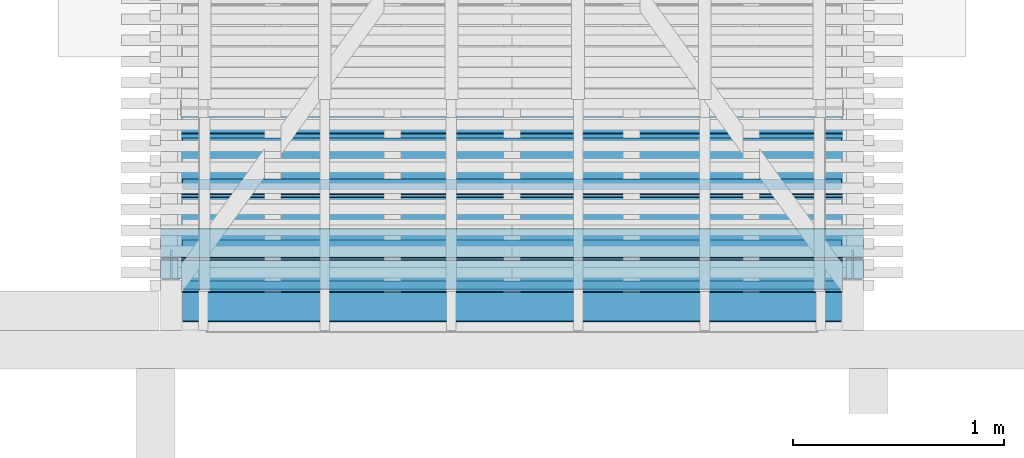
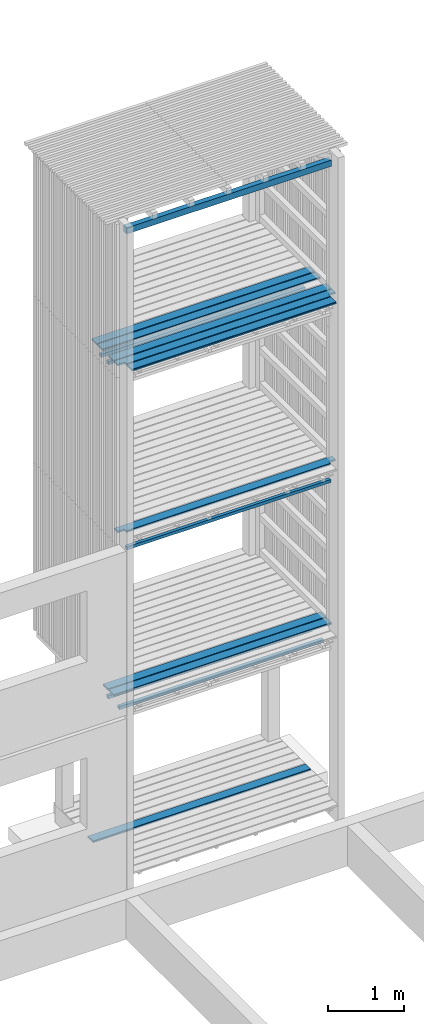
# One storey, part 68 of 182: 15 beams.
"""IFC2X3 building model written with IfcOpenShell, lengths in metres."""

from ifc_helpers import new_model, si_unit, frame, origin, place, context, project, spatial, faceted_brep, element, save


model = new_model("IFC2X3")

# Units and contexts
model_context = context("Model", 3, precision=1e-06, world=origin())
ifc_project = project(units=[si_unit("LENGTHUNIT", "METRE"), si_unit("PLANEANGLEUNIT", "RADIAN")], contexts=[model_context])

# Site, building, storey
site = spatial("IfcSite", under=ifc_project, CompositionType="ELEMENT")
building = spatial("IfcBuilding", under=site, CompositionType="ELEMENT")
storey = spatial("IfcBuildingStorey", under=building, Name="vs", CompositionType="ELEMENT", Elevation=-0.85)

# Beams
placement = place(None, origin())
beam_1_placement = place(placement, frame((26.374999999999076, 11.18457769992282, 8.13349999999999), z_axis=(0.0, 0.0, 1.0), x_axis=(-1.0, -2e-15, 0.0)))
element("IfcBeam", 1, at=beam_1_placement, inside=storey, Name="Caillebotis", context=model_context, shape_type="Brep", body=[
    faceted_brep([(3.329999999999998, -0.072500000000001, -0.013500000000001), (3.329999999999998, 0.072500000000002, -0.013500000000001), (3.329999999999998, 0.072499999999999, 0.008499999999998), (3.329999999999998, 0.0675, 0.013499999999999), (3.329999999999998, -0.067500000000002, 0.013499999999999), (3.329999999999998, -0.072500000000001, 0.0085), (0.0, -0.072499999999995, 0.0085), (0.0, -0.067499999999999, 0.013499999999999), (0.0, 0.067500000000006, 0.013499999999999), (0.0, 0.072500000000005, 0.008499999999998), (0.0, 0.072500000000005, -0.013500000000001), (0.0, -0.072499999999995, -0.013500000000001), (3.329999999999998, 0.072499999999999, 0.008499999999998), (3.329999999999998, 0.072500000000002, -0.013500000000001), (0.0, 0.072500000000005, -0.013500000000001), (0.0, 0.072500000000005, 0.008499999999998), (3.329999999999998, 0.0675, 0.013499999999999), (3.329999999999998, 0.072499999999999, 0.008499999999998), (0.0, 0.072500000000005, 0.008499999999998), (0.0, 0.067500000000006, 0.013499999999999), (3.329999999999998, -0.067500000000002, 0.013499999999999), (3.329999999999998, 0.0675, 0.013499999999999), (0.0, 0.067500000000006, 0.013499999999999), (0.0, -0.067499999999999, 0.013499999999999), (3.329999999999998, -0.072500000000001, 0.0085), (3.329999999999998, -0.067500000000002, 0.013499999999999), (0.0, -0.067499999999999, 0.013499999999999), (0.0, -0.072499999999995, 0.0085), (3.329999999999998, -0.072500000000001, -0.013500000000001), (3.329999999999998, -0.072500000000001, 0.0085), (0.0, -0.072499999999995, 0.0085), (0.0, -0.072499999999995, -0.013500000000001), (0.0, 0.072500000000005, -0.013500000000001), (3.329999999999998, 0.072500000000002, -0.013500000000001), (3.329999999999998, -0.072500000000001, -0.013500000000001), (0.0, -0.072499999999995, -0.013500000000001)], [[[0, 1, 2, 3, 4, 5]], [[6, 7, 8, 9, 10, 11]], [[12, 13, 14, 15]], [[16, 17, 18, 19]], [[20, 21, 22, 23]], [[24, 25, 26, 27]], [[28, 29, 30, 31]], [[32, 33, 34, 35]]]),
])
beam_2_placement = place(placement, frame((26.269999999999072, 10.680077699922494, 5.167999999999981), z_axis=(0.0, 0.0, 1.0), x_axis=(-1.0, 0.0, 0.0)))
element("IfcBeam", 2, at=beam_2_placement, inside=storey, Name="Bardage", context=model_context, shape_type="Brep", body=[
    faceted_brep([(3.120000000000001, -0.025000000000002, 0.025000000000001), (3.120000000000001, -0.025000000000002, -0.025), (3.120000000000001, 0.024999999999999, -0.025), (3.120000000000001, 0.024999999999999, 0.025000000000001), (-3e-15, 0.024999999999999, 0.025000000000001), (-3e-15, 0.024999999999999, -0.025), (-3e-15, -0.024999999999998, -0.025), (-3e-15, -0.024999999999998, 0.025000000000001), (3.120000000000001, -0.025000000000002, -0.025), (3.120000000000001, -0.025000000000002, 0.025000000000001), (-3e-15, -0.024999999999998, 0.025000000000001), (-3e-15, -0.024999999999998, -0.025), (3.120000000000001, 0.024999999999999, -0.025), (3.120000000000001, -0.025000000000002, -0.025), (-3e-15, -0.024999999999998, -0.025), (-3e-15, 0.024999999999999, -0.025), (3.120000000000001, 0.024999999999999, 0.025000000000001), (3.120000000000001, 0.024999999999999, -0.025), (-3e-15, 0.024999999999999, -0.025), (-3e-15, 0.024999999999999, 0.025000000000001), (3.120000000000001, -0.025000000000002, 0.025000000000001), (3.120000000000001, 0.024999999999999, 0.025000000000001), (-3e-15, 0.024999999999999, 0.025000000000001), (-3e-15, -0.024999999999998, 0.025000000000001)], [[[0, 1, 2, 3]], [[4, 5, 6, 7]], [[8, 9, 10, 11]], [[12, 13, 14, 15]], [[16, 17, 18, 19]], [[20, 21, 22, 23]]]),
])
beam_3_placement = place(placement, frame((26.269999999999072, 11.164452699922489, 7.867999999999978), z_axis=(0.0, 0.0, 1.0), x_axis=(-1.0, 0.0, 0.0)))
element("IfcBeam", 3, at=beam_3_placement, inside=storey, Name="Bardage", context=model_context, shape_type="Brep", body=[
    faceted_brep([(3.120000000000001, 0.025000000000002, -0.025000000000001), (3.120000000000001, -0.024999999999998, -0.025000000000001), (-3e-15, -0.024999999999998, -0.025000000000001), (-3e-15, 0.024999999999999, -0.025000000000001), (-3e-15, -0.024999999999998, -0.025000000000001), (3.120000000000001, -0.024999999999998, -0.025000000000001), (3.120000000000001, -0.024999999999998, 0.024999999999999), (-3e-15, -0.024999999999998, 0.024999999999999), (3.120000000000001, -0.024999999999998, -0.025000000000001), (3.120000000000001, 0.025000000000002, -0.025000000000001), (3.120000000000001, 0.025000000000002, 0.024999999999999), (3.120000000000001, -0.024999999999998, 0.024999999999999), (3.120000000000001, 0.025000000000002, 0.024999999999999), (3.120000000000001, 0.025000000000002, -0.025000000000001), (-3e-15, 0.024999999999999, -0.025000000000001), (-3e-15, 0.024999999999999, 0.024999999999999), (-3e-15, -0.024999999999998, 0.024999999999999), (3.120000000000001, -0.024999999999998, 0.024999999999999), (3.120000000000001, 0.025000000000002, 0.024999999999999), (-3e-15, 0.024999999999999, 0.024999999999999), (-3e-15, -0.024999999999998, -0.025000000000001), (-3e-15, -0.024999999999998, 0.024999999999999), (-3e-15, 0.024999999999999, 0.024999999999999), (-3e-15, 0.024999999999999, -0.025000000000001)], [[[0, 1, 2, 3]], [[4, 5, 6, 7]], [[8, 9, 10, 11]], [[12, 13, 14, 15]], [[16, 17, 18, 19]], [[20, 21, 22, 23]]]),
])
beam_4_placement = place(placement, frame((26.269999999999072, 11.358202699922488, 7.867999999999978), z_axis=(0.0, 0.0, 1.0), x_axis=(-1.0, -1e-15, 0.0)))
element("IfcBeam", 4, at=beam_4_placement, inside=storey, Name="Bardage", context=model_context, shape_type="Brep", body=[
    faceted_brep([(3.120000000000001, 0.024999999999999, -0.025000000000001), (3.120000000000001, -0.025000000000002, -0.025000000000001), (-3e-15, -0.025000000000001, -0.025000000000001), (-3e-15, 0.025000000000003, -0.025000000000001), (-3e-15, -0.025000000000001, -0.025000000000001), (3.120000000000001, -0.025000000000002, -0.025000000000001), (3.120000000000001, -0.025000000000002, 0.024999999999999), (-3e-15, -0.025000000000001, 0.024999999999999), (3.120000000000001, -0.025000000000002, -0.025000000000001), (3.120000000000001, 0.024999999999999, -0.025000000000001), (3.120000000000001, 0.024999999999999, 0.024999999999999), (3.120000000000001, -0.025000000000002, 0.024999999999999), (3.120000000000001, 0.024999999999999, 0.024999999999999), (3.120000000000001, 0.024999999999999, -0.025000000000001), (-3e-15, 0.025000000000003, -0.025000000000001), (-3e-15, 0.025000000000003, 0.024999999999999), (-3e-15, -0.025000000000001, 0.024999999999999), (3.120000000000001, -0.025000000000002, 0.024999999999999), (3.120000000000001, 0.024999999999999, 0.024999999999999), (-3e-15, 0.025000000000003, 0.024999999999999), (-3e-15, -0.025000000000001, -0.025000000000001), (-3e-15, -0.025000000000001, 0.024999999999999), (-3e-15, 0.025000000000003, 0.024999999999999), (-3e-15, 0.025000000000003, -0.025000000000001)], [[[0, 1, 2, 3]], [[4, 5, 6, 7]], [[8, 9, 10, 11]], [[12, 13, 14, 15]], [[16, 17, 18, 19]], [[20, 21, 22, 23]]]),
])
beam_5_placement = place(placement, frame((26.269999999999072, 10.873827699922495, 2.467999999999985), z_axis=(0.0, 0.0, 1.0), x_axis=(-1.0, 0.0, 0.0)))
element("IfcBeam", 5, at=beam_5_placement, inside=storey, Name="Bardage", context=model_context, shape_type="Brep", body=[
    faceted_brep([(3.120000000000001, 0.025000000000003, -0.025), (3.120000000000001, -0.024999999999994, -0.025), (-3e-15, -0.024999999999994, -0.025), (-3e-15, 0.025000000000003, -0.025), (-3e-15, -0.024999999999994, -0.025), (3.120000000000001, -0.024999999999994, -0.025), (3.120000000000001, -0.024999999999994, 0.025), (-3e-15, -0.024999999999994, 0.025), (3.120000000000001, -0.024999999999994, -0.025), (3.120000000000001, 0.025000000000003, -0.025), (3.120000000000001, 0.025000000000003, 0.025), (3.120000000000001, -0.024999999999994, 0.025), (3.120000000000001, 0.025000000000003, 0.025), (3.120000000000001, 0.025000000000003, -0.025), (-3e-15, 0.025000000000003, -0.025), (-3e-15, 0.025000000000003, 0.025), (-3e-15, -0.024999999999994, 0.025), (3.120000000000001, -0.024999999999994, 0.025), (3.120000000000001, 0.025000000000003, 0.025), (-3e-15, 0.025000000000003, 0.025), (-3e-15, -0.024999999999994, -0.025), (-3e-15, -0.024999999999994, 0.025), (-3e-15, 0.025000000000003, 0.025), (-3e-15, 0.025000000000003, -0.025)], [[[0, 1, 2, 3]], [[4, 5, 6, 7]], [[8, 9, 10, 11]], [[12, 13, 14, 15]], [[16, 17, 18, 19]], [[20, 21, 22, 23]]]),
])
beam_6_placement = place(placement, frame((26.269999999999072, 10.584577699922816, 8.13349999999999), z_axis=(0.0, 0.0, 1.0), x_axis=(-1.0, 0.0, 0.0)))
element("IfcBeam", 6, at=beam_6_placement, inside=storey, Name="Caillebotis", context=model_context, shape_type="Brep", body=[
    faceted_brep([(-3e-15, -0.072500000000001, 0.008500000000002), (-3e-15, -0.067500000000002, 0.013499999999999), (-3e-15, 0.067499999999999, 0.013499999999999), (-3e-15, 0.072499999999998, 0.0085), (-3e-15, 0.072499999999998, -0.013500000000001), (-3e-15, -0.072500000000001, -0.013500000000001), (-3e-15, 0.072499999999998, -0.013500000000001), (-3e-15, 0.072499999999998, 0.0085), (3.120000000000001, 0.072499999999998, 0.008499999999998), (3.120000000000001, 0.072499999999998, -0.013500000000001), (-3e-15, -0.072500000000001, -0.013500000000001), (-3e-15, 0.072499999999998, -0.013500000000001), (3.120000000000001, 0.072499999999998, -0.013500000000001), (3.120000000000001, -0.072500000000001, -0.013500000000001), (-3e-15, -0.072500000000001, 0.008500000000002), (-3e-15, -0.072500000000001, -0.013500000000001), (3.120000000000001, -0.072500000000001, -0.013500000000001), (3.120000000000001, -0.072500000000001, 0.0085), (-3e-15, -0.067500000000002, 0.013499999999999), (-3e-15, -0.072500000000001, 0.008500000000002), (3.120000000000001, -0.072500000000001, 0.0085), (3.120000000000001, -0.067500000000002, 0.013499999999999), (-3e-15, 0.067499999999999, 0.013499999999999), (-3e-15, -0.067500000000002, 0.013499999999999), (3.120000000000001, -0.067500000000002, 0.013499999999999), (3.120000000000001, 0.067499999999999, 0.013499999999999), (-3e-15, 0.072499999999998, 0.0085), (-3e-15, 0.067499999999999, 0.013499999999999), (3.120000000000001, 0.067499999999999, 0.013499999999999), (3.120000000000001, 0.072499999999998, 0.008499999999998), (3.120000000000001, -0.072500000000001, -0.013500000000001), (3.120000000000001, 0.072499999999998, -0.013500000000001), (3.120000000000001, 0.072499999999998, 0.008499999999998), (3.120000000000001, 0.067499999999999, 0.013499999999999), (3.120000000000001, -0.067500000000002, 0.013499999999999), (3.120000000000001, -0.072500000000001, 0.0085)], [[[0, 1, 2, 3, 4, 5]], [[6, 7, 8, 9]], [[10, 11, 12, 13]], [[14, 15, 16, 17]], [[18, 19, 20, 21]], [[22, 23, 24, 25]], [[26, 27, 28, 29]], [[30, 31, 32, 33, 34, 35]]]),
])
beam_7_placement = place(placement, frame((26.374999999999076, 11.034577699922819, 2.733499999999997), z_axis=(0.0, 0.0, 1.0), x_axis=(-1.0, -1e-15, 0.0)))
element("IfcBeam", 7, at=beam_7_placement, inside=storey, Name="Caillebotis", context=model_context, shape_type="Brep", body=[
    faceted_brep([(3.329999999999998, -0.072500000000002, -0.0135), (3.329999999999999, 0.072500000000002, -0.0135), (3.329999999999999, 0.072500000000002, 0.0085), (3.329999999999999, 0.067499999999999, 0.0135), (3.329999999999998, -0.067499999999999, 0.0135), (3.329999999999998, -0.072500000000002, 0.008500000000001), (0.0, -0.072499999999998, 0.008500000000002), (0.0, -0.067499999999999, 0.0135), (0.0, 0.067500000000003, 0.0135), (0.0, 0.072500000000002, 0.0085), (0.0, 0.072500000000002, -0.0135), (0.0, -0.072499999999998, -0.0135), (3.329999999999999, 0.072500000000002, 0.0085), (3.329999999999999, 0.072500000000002, -0.0135), (0.0, 0.072500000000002, -0.0135), (0.0, 0.072500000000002, 0.0085), (3.329999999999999, 0.067499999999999, 0.0135), (3.329999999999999, 0.072500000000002, 0.0085), (0.0, 0.072500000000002, 0.0085), (0.0, 0.067500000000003, 0.0135), (3.329999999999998, -0.067499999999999, 0.0135), (3.329999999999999, 0.067499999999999, 0.0135), (0.0, 0.067500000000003, 0.0135), (0.0, -0.067499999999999, 0.0135), (3.329999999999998, -0.072500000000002, 0.008500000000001), (3.329999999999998, -0.067499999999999, 0.0135), (0.0, -0.067499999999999, 0.0135), (0.0, -0.072499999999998, 0.008500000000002), (3.329999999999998, -0.072500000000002, -0.0135), (3.329999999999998, -0.072500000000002, 0.008500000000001), (0.0, -0.072499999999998, 0.008500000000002), (0.0, -0.072499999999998, -0.0135), (0.0, 0.072500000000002, -0.0135), (3.329999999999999, 0.072500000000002, -0.0135), (3.329999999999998, -0.072500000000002, -0.0135), (0.0, -0.072499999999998, -0.0135)], [[[0, 1, 2, 3, 4, 5]], [[6, 7, 8, 9, 10, 11]], [[12, 13, 14, 15]], [[16, 17, 18, 19]], [[20, 21, 22, 23]], [[24, 25, 26, 27]], [[28, 29, 30, 31]], [[32, 33, 34, 35]]]),
])
beam_8_placement = place(placement, frame((26.374999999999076, 10.734577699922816, 5.433499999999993), z_axis=(0.0, 0.0, 1.0), x_axis=(-1.0, 0.0, 0.0)))
element("IfcBeam", 8, at=beam_8_placement, inside=storey, Name="Caillebotis", context=model_context, shape_type="Brep", body=[
    faceted_brep([(0.0, -0.072499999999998, -0.0135), (0.0, -0.072499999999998, 0.008500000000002), (0.0, -0.067499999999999, 0.0135), (0.0, 0.019500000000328, 0.0135), (0.0, 0.019500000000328, -0.0135), (3.329999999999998, -0.067499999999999, 0.0135), (3.329999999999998, 0.019500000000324, 0.0135), (3.225000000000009, 0.019500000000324, 0.0135), (3.225000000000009, 0.067500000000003, 0.0135), (0.105000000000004, 0.067500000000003, 0.0135), (0.105000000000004, 0.019500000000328, 0.0135), (0.0, 0.019500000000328, 0.0135), (0.0, -0.067499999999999, 0.0135), (0.105000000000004, 0.019500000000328, 0.0135), (0.105000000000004, 0.067500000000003, 0.0135), (0.105000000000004, 0.072500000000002, 0.008500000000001), (0.105000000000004, 0.072500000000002, -0.0135), (0.105000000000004, 0.019500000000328, -0.0135), (0.105000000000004, 0.072500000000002, 0.008500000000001), (0.105000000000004, 0.067500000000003, 0.0135), (3.225000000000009, 0.067500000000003, 0.0135), (3.225000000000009, 0.072500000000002, 0.0085), (0.105000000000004, 0.072500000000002, -0.0135), (0.105000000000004, 0.072500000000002, 0.008500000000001), (3.225000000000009, 0.072500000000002, 0.0085), (3.225000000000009, 0.072500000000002, -0.0135), (3.225000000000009, 0.072500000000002, -0.0135), (3.225000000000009, 0.072500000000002, 0.0085), (3.225000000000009, 0.067500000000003, 0.0135), (3.225000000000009, 0.019500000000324, 0.0135), (3.225000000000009, 0.019500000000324, -0.0135), (3.225000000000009, 0.019500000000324, -0.0135), (3.225000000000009, 0.019500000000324, 0.0135), (3.329999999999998, 0.019500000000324, 0.0135), (3.329999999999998, 0.019500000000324, -0.0135), (3.329999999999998, -0.072499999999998, 0.008500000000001), (3.329999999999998, -0.072499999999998, -0.0135), (3.329999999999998, 0.019500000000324, -0.0135), (3.329999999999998, 0.019500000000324, 0.0135), (3.329999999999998, -0.067499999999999, 0.0135), (3.329999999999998, -0.072499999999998, 0.008500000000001), (3.329999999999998, -0.067499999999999, 0.0135), (0.0, -0.067499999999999, 0.0135), (0.0, -0.072499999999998, 0.008500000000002), (3.329999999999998, -0.072499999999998, -0.0135), (3.329999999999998, -0.072499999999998, 0.008500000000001), (0.0, -0.072499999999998, 0.008500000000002), (0.0, -0.072499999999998, -0.0135), (0.105000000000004, 0.019500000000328, -0.0135), (0.105000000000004, 0.072500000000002, -0.0135), (3.225000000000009, 0.072500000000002, -0.0135), (3.225000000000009, 0.019500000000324, -0.0135), (3.329999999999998, 0.019500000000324, -0.0135), (3.329999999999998, -0.072499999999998, -0.0135), (0.0, -0.072499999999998, -0.0135), (0.0, 0.019500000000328, -0.0135), (0.0, 0.019500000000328, 0.0135), (0.105000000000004, 0.019500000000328, 0.0135), (0.105000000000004, 0.019500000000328, -0.0135), (0.0, 0.019500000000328, -0.0135)], [[[0, 1, 2, 3, 4]], [[5, 6, 7, 8, 9, 10, 11, 12]], [[13, 14, 15, 16, 17]], [[18, 19, 20, 21]], [[22, 23, 24, 25]], [[26, 27, 28, 29, 30]], [[31, 32, 33, 34]], [[35, 36, 37, 38, 39]], [[40, 41, 42, 43]], [[44, 45, 46, 47]], [[48, 49, 50, 51, 52, 53, 54, 55]], [[56, 57, 58, 59]]]),
])
beam_9_placement = place(placement, frame((26.374999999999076, 10.884577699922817, 2.733499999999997), z_axis=(0.0, 0.0, 1.0), x_axis=(-1.0, -2e-15, 0.0)))
element("IfcBeam", 9, at=beam_9_placement, inside=storey, Name="Caillebotis", context=model_context, shape_type="Brep", body=[
    faceted_brep([(3.329999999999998, -0.072500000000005, -0.0135), (3.329999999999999, 0.072499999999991, -0.0135), (3.329999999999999, 0.072499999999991, 0.0085), (3.329999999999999, 0.067499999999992, 0.0135), (3.329999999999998, -0.067500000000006, 0.0135), (3.329999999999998, -0.072500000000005, 0.008500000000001), (0.0, -0.072500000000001, 0.008500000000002), (0.0, -0.067499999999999, 0.0135), (0.0, 0.067499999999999, 0.0135), (0.0, 0.072500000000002, 0.0085), (0.0, 0.072500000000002, -0.0135), (0.0, -0.072500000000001, -0.0135), (3.329999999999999, 0.072499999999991, 0.0085), (3.329999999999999, 0.072499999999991, -0.0135), (0.0, 0.072500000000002, -0.0135), (0.0, 0.072500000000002, 0.0085), (3.329999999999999, 0.067499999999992, 0.0135), (3.329999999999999, 0.072499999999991, 0.0085), (0.0, 0.072500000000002, 0.0085), (0.0, 0.067499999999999, 0.0135), (3.329999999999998, -0.067500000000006, 0.0135), (3.329999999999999, 0.067499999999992, 0.0135), (0.0, 0.067499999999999, 0.0135), (0.0, -0.067499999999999, 0.0135), (3.329999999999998, -0.072500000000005, 0.008500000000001), (3.329999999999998, -0.067500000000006, 0.0135), (0.0, -0.067499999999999, 0.0135), (0.0, -0.072500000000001, 0.008500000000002), (3.329999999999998, -0.072500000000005, -0.0135), (3.329999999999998, -0.072500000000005, 0.008500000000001), (0.0, -0.072500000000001, 0.008500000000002), (0.0, -0.072500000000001, -0.0135), (0.0, 0.072500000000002, -0.0135), (3.329999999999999, 0.072499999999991, -0.0135), (3.329999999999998, -0.072500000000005, -0.0135), (0.0, -0.072500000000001, -0.0135)], [[[0, 1, 2, 3, 4, 5]], [[6, 7, 8, 9, 10, 11]], [[12, 13, 14, 15]], [[16, 17, 18, 19]], [[20, 21, 22, 23]], [[24, 25, 26, 27]], [[28, 29, 30, 31]], [[32, 33, 34, 35]]]),
])
beam_10_placement = place(placement, frame((26.374999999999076, 10.884577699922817, 8.13349999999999), z_axis=(0.0, 0.0, 1.0), x_axis=(-1.0, -2e-15, 0.0)))
element("IfcBeam", 10, at=beam_10_placement, inside=storey, Name="Caillebotis", context=model_context, shape_type="Brep", body=[
    faceted_brep([(3.329999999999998, -0.072500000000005, -0.013500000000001), (3.329999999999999, 0.072499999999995, -0.013500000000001), (3.329999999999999, 0.072499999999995, 0.008499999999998), (3.329999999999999, 0.067499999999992, 0.013499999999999), (3.329999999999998, -0.067500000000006, 0.013499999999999), (3.329999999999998, -0.072500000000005, 0.0085), (0.0, -0.072500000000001, 0.0085), (0.0, -0.067499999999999, 0.013499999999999), (0.0, 0.067500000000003, 0.013499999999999), (0.0, 0.072500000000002, 0.008499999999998), (0.0, 0.072500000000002, -0.013500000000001), (0.0, -0.072500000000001, -0.013500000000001), (3.329999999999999, 0.072499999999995, 0.008499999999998), (3.329999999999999, 0.072499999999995, -0.013500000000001), (0.0, 0.072500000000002, -0.013500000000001), (0.0, 0.072500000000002, 0.008499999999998), (3.329999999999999, 0.067499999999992, 0.013499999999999), (3.329999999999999, 0.072499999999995, 0.008499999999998), (0.0, 0.072500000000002, 0.008499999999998), (0.0, 0.067500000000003, 0.013499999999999), (3.329999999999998, -0.067500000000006, 0.013499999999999), (3.329999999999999, 0.067499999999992, 0.013499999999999), (0.0, 0.067500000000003, 0.013499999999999), (0.0, -0.067499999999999, 0.013499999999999), (3.329999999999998, -0.072500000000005, 0.0085), (3.329999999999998, -0.067500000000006, 0.013499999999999), (0.0, -0.067499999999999, 0.013499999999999), (0.0, -0.072500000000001, 0.0085), (3.329999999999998, -0.072500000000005, -0.013500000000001), (3.329999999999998, -0.072500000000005, 0.0085), (0.0, -0.072500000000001, 0.0085), (0.0, -0.072500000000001, -0.013500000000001), (0.0, 0.072500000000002, -0.013500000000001), (3.329999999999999, 0.072499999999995, -0.013500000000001), (3.329999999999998, -0.072500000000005, -0.013500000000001), (0.0, -0.072500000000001, -0.013500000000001)], [[[0, 1, 2, 3, 4, 5]], [[6, 7, 8, 9, 10, 11]], [[12, 13, 14, 15]], [[16, 17, 18, 19]], [[20, 21, 22, 23]], [[24, 25, 26, 27]], [[28, 29, 30, 31]], [[32, 33, 34, 35]]]),
])
beam_11_placement = place(placement, frame((26.374999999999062, 11.434577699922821, 0.033500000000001), z_axis=(0.0, 0.0, 1.0), x_axis=(-1.0, 0.0, 0.0)))
element("IfcBeam", 11, at=beam_11_placement, inside=storey, Name="Caillebotis", context=model_context, shape_type="Brep", body=[
    faceted_brep([(3.329999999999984, -0.067499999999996, 0.0135), (3.329999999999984, -0.072499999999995, 0.008500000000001), (3.329999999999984, -0.072499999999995, -0.013500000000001), (3.329999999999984, 0.072500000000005, -0.013500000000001), (3.329999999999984, 0.072500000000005, 0.0085), (3.329999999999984, 0.067500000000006, 0.0135), (0.0, 0.067500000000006, 0.0135), (0.0, 0.072500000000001, 0.0085), (0.0, 0.072500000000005, -0.013500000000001), (0.0, -0.072499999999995, -0.013500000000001), (0.0, -0.072499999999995, 0.008500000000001), (0.0, -0.067499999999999, 0.0135), (3.329999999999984, -0.072499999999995, -0.013500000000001), (3.329999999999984, -0.072499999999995, 0.008500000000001), (0.0, -0.072499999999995, 0.008500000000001), (0.0, -0.072499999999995, -0.013500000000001), (3.329999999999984, 0.072500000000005, -0.013500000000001), (3.329999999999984, -0.072499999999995, -0.013500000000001), (0.0, -0.072499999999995, -0.013500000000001), (0.0, 0.072500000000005, -0.013500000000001), (3.329999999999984, 0.072500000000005, 0.0085), (3.329999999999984, 0.072500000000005, -0.013500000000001), (0.0, 0.072500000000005, -0.013500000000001), (0.0, 0.072500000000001, 0.0085), (3.329999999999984, 0.067500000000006, 0.0135), (3.329999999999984, 0.072500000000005, 0.0085), (0.0, 0.072500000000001, 0.0085), (0.0, 0.067500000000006, 0.0135), (3.329999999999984, -0.067499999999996, 0.0135), (3.329999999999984, 0.067500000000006, 0.0135), (0.0, 0.067500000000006, 0.0135), (0.0, -0.067499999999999, 0.0135), (0.0, -0.072499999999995, 0.008500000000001), (3.329999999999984, -0.072499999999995, 0.008500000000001), (3.329999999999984, -0.067499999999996, 0.0135), (0.0, -0.067499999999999, 0.0135)], [[[0, 1, 2, 3, 4, 5]], [[6, 7, 8, 9, 10, 11]], [[12, 13, 14, 15]], [[16, 17, 18, 19]], [[20, 21, 22, 23]], [[24, 25, 26, 27]], [[28, 29, 30, 31]], [[32, 33, 34, 35]]]),
])
beam_12_placement = place(placement, frame((26.274999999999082, 10.690077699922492, 10.30499999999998), z_axis=(0.0, 0.0, 1.0), x_axis=(-1.0, 0.0, 0.0)))
element("IfcBeam", 12, at=beam_12_placement, inside=storey, Name="Support bardage", context=model_context, shape_type="Brep", body=[
    faceted_brep([(2e-15, 0.04, -0.050000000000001), (2e-15, -0.039999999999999, -0.050000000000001), (2e-15, -0.039999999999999, 0.050000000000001), (2e-15, 0.04, 0.050000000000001), (3.130000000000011, -0.039999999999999, 0.050000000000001), (3.130000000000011, -0.039999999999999, -0.050000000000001), (3.130000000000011, 0.04, -0.050000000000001), (3.130000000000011, 0.04, 0.050000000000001), (2e-15, -0.039999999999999, 0.050000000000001), (2e-15, -0.039999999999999, -0.050000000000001), (3.130000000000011, -0.039999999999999, -0.050000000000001), (3.130000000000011, -0.039999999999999, 0.050000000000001), (3.130000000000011, -0.039999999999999, -0.050000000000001), (2e-15, -0.039999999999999, -0.050000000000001), (2e-15, 0.04, -0.050000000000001), (3.130000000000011, 0.04, -0.050000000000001), (3.130000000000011, 0.04, -0.050000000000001), (2e-15, 0.04, -0.050000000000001), (2e-15, 0.04, 0.050000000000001), (3.130000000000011, 0.04, 0.050000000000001), (3.130000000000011, 0.04, 0.050000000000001), (2e-15, 0.04, 0.050000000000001), (2e-15, -0.039999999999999, 0.050000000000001), (3.130000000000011, -0.039999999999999, 0.050000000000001)], [[[0, 1, 2, 3]], [[4, 5, 6, 7]], [[8, 9, 10, 11]], [[12, 13, 14, 15]], [[16, 17, 18, 19]], [[20, 21, 22, 23]]]),
])
beam_13_placement = place(placement, frame((26.374999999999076, 11.334577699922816, 8.13349999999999), z_axis=(0.0, 0.0, 1.0), x_axis=(-1.0, 0.0, 0.0)))
element("IfcBeam", 13, at=beam_13_placement, inside=storey, Name="Caillebotis", context=model_context, shape_type="Brep", body=[
    faceted_brep([(3.329999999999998, -0.072499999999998, -0.013500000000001), (3.329999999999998, 0.072500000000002, -0.013500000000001), (3.329999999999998, 0.072500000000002, 0.008499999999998), (3.329999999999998, 0.067500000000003, 0.013499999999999), (3.329999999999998, -0.067500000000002, 0.013499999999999), (3.329999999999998, -0.072499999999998, 0.0085), (0.0, -0.072499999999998, 0.0085), (0.0, -0.067500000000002, 0.013499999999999), (0.0, 0.067500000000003, 0.013499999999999), (0.0, 0.072499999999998, 0.008499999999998), (0.0, 0.072499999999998, -0.013500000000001), (0.0, -0.072499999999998, -0.013500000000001), (3.329999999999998, 0.072500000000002, 0.008499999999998), (3.329999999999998, 0.072500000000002, -0.013500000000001), (0.0, 0.072499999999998, -0.013500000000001), (0.0, 0.072499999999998, 0.008499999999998), (3.329999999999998, 0.067500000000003, 0.013499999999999), (3.329999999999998, 0.072500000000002, 0.008499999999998), (0.0, 0.072499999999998, 0.008499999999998), (0.0, 0.067500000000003, 0.013499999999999), (3.329999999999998, -0.067500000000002, 0.013499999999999), (3.329999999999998, 0.067500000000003, 0.013499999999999), (0.0, 0.067500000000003, 0.013499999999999), (0.0, -0.067500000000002, 0.013499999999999), (3.329999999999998, -0.072499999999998, 0.0085), (3.329999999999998, -0.067500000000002, 0.013499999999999), (0.0, -0.067500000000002, 0.013499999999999), (0.0, -0.072499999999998, 0.0085), (3.329999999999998, -0.072499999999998, -0.013500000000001), (3.329999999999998, -0.072499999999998, 0.0085), (0.0, -0.072499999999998, 0.0085), (0.0, -0.072499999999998, -0.013500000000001), (0.0, 0.072499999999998, -0.013500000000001), (3.329999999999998, 0.072500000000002, -0.013500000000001), (3.329999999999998, -0.072499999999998, -0.013500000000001), (0.0, -0.072499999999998, -0.013500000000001)], [[[0, 1, 2, 3, 4, 5]], [[6, 7, 8, 9, 10, 11]], [[12, 13, 14, 15]], [[16, 17, 18, 19]], [[20, 21, 22, 23]], [[24, 25, 26, 27]], [[28, 29, 30, 31]], [[32, 33, 34, 35]]]),
])
beam_14_placement = place(placement, frame((26.269999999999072, 11.164452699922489, 2.467999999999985), z_axis=(0.0, 0.0, 1.0), x_axis=(-1.0, 0.0, 0.0)))
element("IfcBeam", 14, at=beam_14_placement, inside=storey, Name="Bardage", context=model_context, shape_type="Brep", body=[
    faceted_brep([(3.120000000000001, 0.025000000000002, -0.025), (3.120000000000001, -0.024999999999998, -0.025), (-3e-15, -0.024999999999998, -0.025), (-3e-15, 0.024999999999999, -0.025), (-3e-15, -0.024999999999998, -0.025), (3.120000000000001, -0.024999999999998, -0.025), (3.120000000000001, -0.024999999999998, 0.025), (-3e-15, -0.024999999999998, 0.025), (3.120000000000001, -0.024999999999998, -0.025), (3.120000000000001, 0.025000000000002, -0.025), (3.120000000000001, 0.025000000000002, 0.025), (3.120000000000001, -0.024999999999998, 0.025), (3.120000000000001, 0.025000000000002, 0.025), (3.120000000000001, 0.025000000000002, -0.025), (-3e-15, 0.024999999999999, -0.025), (-3e-15, 0.024999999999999, 0.025), (-3e-15, -0.024999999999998, 0.025), (3.120000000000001, -0.024999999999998, 0.025), (3.120000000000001, 0.025000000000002, 0.025), (-3e-15, 0.024999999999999, 0.025), (-3e-15, -0.024999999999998, -0.025), (-3e-15, -0.024999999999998, 0.025), (-3e-15, 0.024999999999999, 0.025), (-3e-15, 0.024999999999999, -0.025)], [[[0, 1, 2, 3]], [[4, 5, 6, 7]], [[8, 9, 10, 11]], [[12, 13, 14, 15]], [[16, 17, 18, 19]], [[20, 21, 22, 23]]]),
])
beam_15_placement = place(placement, frame((26.374999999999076, 10.734577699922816, 8.13349999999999), z_axis=(0.0, 0.0, 1.0), x_axis=(-1.0, 0.0, 0.0)))
element("IfcBeam", 15, at=beam_15_placement, inside=storey, Name="Caillebotis", context=model_context, shape_type="Brep", body=[
    faceted_brep([(0.0, -0.072499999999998, -0.013500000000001), (0.0, -0.072499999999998, 0.0085), (0.0, -0.067499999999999, 0.013499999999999), (0.0, 0.019500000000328, 0.013499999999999), (0.0, 0.019500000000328, -0.013500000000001), (3.329999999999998, -0.067499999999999, 0.013499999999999), (3.329999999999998, 0.019500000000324, 0.013499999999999), (3.225000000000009, 0.019500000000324, 0.013499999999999), (3.225000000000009, 0.067500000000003, 0.013499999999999), (0.105000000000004, 0.067500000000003, 0.013499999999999), (0.105000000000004, 0.019500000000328, 0.013499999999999), (0.0, 0.019500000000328, 0.013499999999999), (0.0, -0.067499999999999, 0.013499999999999), (0.105000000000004, 0.019500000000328, 0.013499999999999), (0.105000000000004, 0.067500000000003, 0.013499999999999), (0.105000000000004, 0.072500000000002, 0.0085), (0.105000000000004, 0.072500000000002, -0.013500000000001), (0.105000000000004, 0.019500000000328, -0.013500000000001), (0.105000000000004, 0.072500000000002, 0.0085), (0.105000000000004, 0.067500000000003, 0.013499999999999), (3.225000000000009, 0.067500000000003, 0.013499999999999), (3.225000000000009, 0.072500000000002, 0.008499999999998), (0.105000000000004, 0.072500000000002, -0.013500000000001), (0.105000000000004, 0.072500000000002, 0.0085), (3.225000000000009, 0.072500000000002, 0.008499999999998), (3.225000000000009, 0.072500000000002, -0.013500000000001), (3.225000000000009, 0.072500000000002, -0.013500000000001), (3.225000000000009, 0.072500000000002, 0.008499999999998), (3.225000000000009, 0.067500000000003, 0.013499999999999), (3.225000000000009, 0.019500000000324, 0.013499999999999), (3.225000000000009, 0.019500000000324, -0.013500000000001), (3.225000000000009, 0.019500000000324, -0.013500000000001), (3.225000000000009, 0.019500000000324, 0.013499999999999), (3.329999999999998, 0.019500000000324, 0.013499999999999), (3.329999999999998, 0.019500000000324, -0.013500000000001), (3.329999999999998, -0.072499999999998, 0.0085), (3.329999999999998, -0.072499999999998, -0.013500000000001), (3.329999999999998, 0.019500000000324, -0.013500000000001), (3.329999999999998, 0.019500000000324, 0.013499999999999), (3.329999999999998, -0.067499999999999, 0.013499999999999), (3.329999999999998, -0.072499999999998, 0.0085), (3.329999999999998, -0.067499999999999, 0.013499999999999), (0.0, -0.067499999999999, 0.013499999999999), (0.0, -0.072499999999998, 0.0085), (3.329999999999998, -0.072499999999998, -0.013500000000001), (3.329999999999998, -0.072499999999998, 0.0085), (0.0, -0.072499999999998, 0.0085), (0.0, -0.072499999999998, -0.013500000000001), (0.105000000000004, 0.019500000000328, -0.013500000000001), (0.105000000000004, 0.072500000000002, -0.013500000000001), (3.225000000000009, 0.072500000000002, -0.013500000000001), (3.225000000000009, 0.019500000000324, -0.013500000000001), (3.329999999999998, 0.019500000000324, -0.013500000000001), (3.329999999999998, -0.072499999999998, -0.013500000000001), (0.0, -0.072499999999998, -0.013500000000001), (0.0, 0.019500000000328, -0.013500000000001), (0.0, 0.019500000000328, 0.013499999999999), (0.105000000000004, 0.019500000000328, 0.013499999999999), (0.105000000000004, 0.019500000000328, -0.013500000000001), (0.0, 0.019500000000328, -0.013500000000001)], [[[0, 1, 2, 3, 4]], [[5, 6, 7, 8, 9, 10, 11, 12]], [[13, 14, 15, 16, 17]], [[18, 19, 20, 21]], [[22, 23, 24, 25]], [[26, 27, 28, 29, 30]], [[31, 32, 33, 34]], [[35, 36, 37, 38, 39]], [[40, 41, 42, 43]], [[44, 45, 46, 47]], [[48, 49, 50, 51, 52, 53, 54, 55]], [[56, 57, 58, 59]]]),
])

save(model, "model.ifc")
